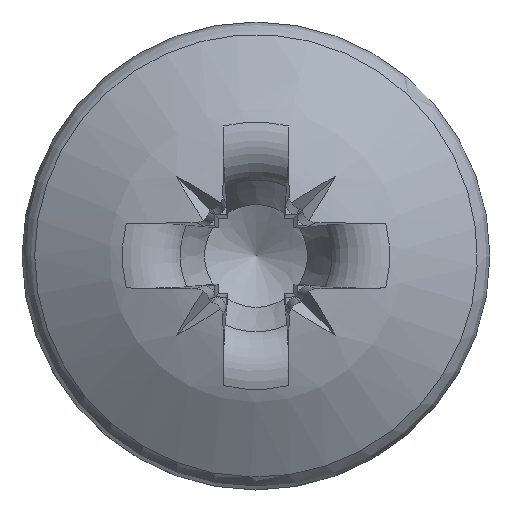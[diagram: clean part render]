
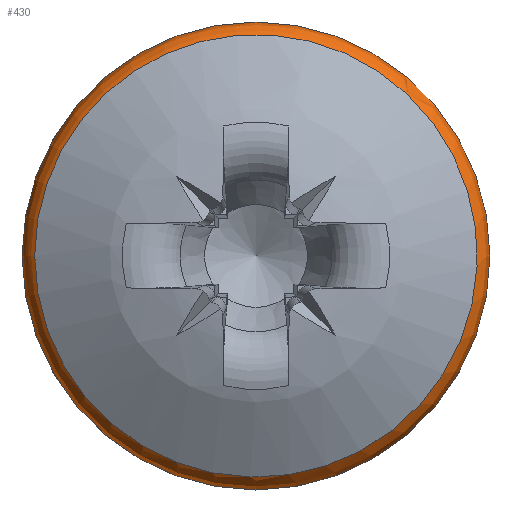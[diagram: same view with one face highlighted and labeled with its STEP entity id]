
A CAD part, top view. The second image highlights one B-rep face of the part: STEP entity #430.
In plain terms, the highlighted toroidal (fillet/blend) face has major radius 2.643 mm and minor radius 0.407 mm.
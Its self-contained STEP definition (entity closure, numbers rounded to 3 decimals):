
#336=TOROIDAL_SURFACE('',#1930,2.643,0.407);
#352=FACE_BOUND('',#664,.T.);
#353=FACE_BOUND('',#665,.T.);
#430=ADVANCED_FACE('',(#352,#353),#336,.T.);
#664=EDGE_LOOP('',(#1097));
#665=EDGE_LOOP('',(#1098));
#716=CIRCLE('',#1815,2.885);
#741=CIRCLE('',#1845,3.05);
#1097=ORIENTED_EDGE('',*,*,#1509,.F.);
#1098=ORIENTED_EDGE('',*,*,#1468,.F.);
#1307=VERTEX_POINT('',#3253);
#1346=VERTEX_POINT('',#3485);
#1468=EDGE_CURVE('',#1307,#1307,#716,.T.);
#1509=EDGE_CURVE('',#1346,#1346,#741,.T.);
#1815=AXIS2_PLACEMENT_3D('',#3252,#1948,#1949);
#1845=AXIS2_PLACEMENT_3D('',#3484,#2009,#2010);
#1930=AXIS2_PLACEMENT_3D('',#3916,#2239,#2240);
#1948=DIRECTION('',(0.,0.,1.));
#1949=DIRECTION('',(-1.,0.,0.));
#2009=DIRECTION('',(0.,0.,-1.));
#2010=DIRECTION('',(-1.,0.,0.));
#2239=DIRECTION('',(0.,0.,-1.));
#2240=DIRECTION('',(-1.,0.,0.));
#3252=CARTESIAN_POINT('',(0.,0.,1.747));
#3253=CARTESIAN_POINT('',(-2.885,0.,1.747));
#3484=CARTESIAN_POINT('',(0.,0.,1.421));
#3485=CARTESIAN_POINT('',(-3.05,0.,1.421));
#3916=CARTESIAN_POINT('',(0.,0.,1.421));
